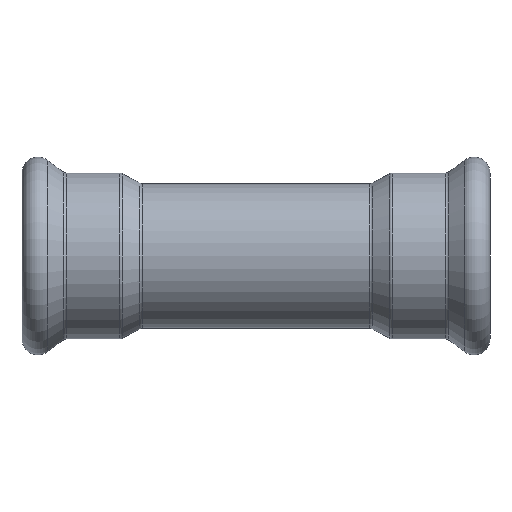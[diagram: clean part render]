
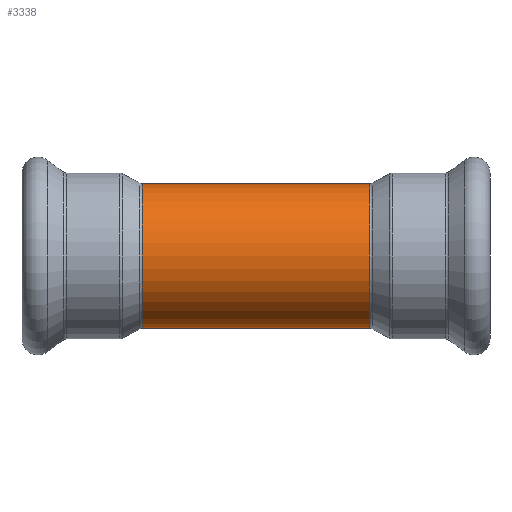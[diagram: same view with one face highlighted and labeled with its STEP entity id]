
A CAD part, front view. The second image highlights one B-rep face of the part: STEP entity #3338.
In plain terms, the highlighted cylindrical face has radius 13.6 mm (diameter 27.2 mm), a partial arc.
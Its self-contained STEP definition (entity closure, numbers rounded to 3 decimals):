
#211 = FACE_OUTER_BOUND ( 'NONE', #1458, .T. ) ;
#228 = ORIENTED_EDGE ( 'NONE', *, *, #1942, .F. ) ;
#263 = EDGE_CURVE ( 'NONE', #1545, #2085, #3509, .T. ) ;
#716 = DIRECTION ( 'NONE',  ( -1., 0., 0. ) ) ;
#768 = DIRECTION ( 'NONE',  ( -1., 0., 0. ) ) ;
#819 = ORIENTED_EDGE ( 'NONE', *, *, #263, .T. ) ;
#836 = DIRECTION ( 'NONE',  ( 0., 0., 1. ) ) ;
#858 = EDGE_CURVE ( 'NONE', #2085, #2040, #3979, .T. ) ;
#1033 = CARTESIAN_POINT ( 'NONE',  ( 0., 0., 13.6 ) ) ;
#1049 = CARTESIAN_POINT ( 'NONE',  ( -21.377, 0., -13.6 ) ) ;
#1064 = CARTESIAN_POINT ( 'NONE',  ( 21.377, 0., 0. ) ) ;
#1120 = CARTESIAN_POINT ( 'NONE',  ( 0., 0., -13.6 ) ) ;
#1232 = CARTESIAN_POINT ( 'NONE',  ( -21.377, 0., 0. ) ) ;
#1458 = EDGE_LOOP ( 'NONE', ( #228, #819, #2726, #3712 ) ) ;
#1545 = VERTEX_POINT ( 'NONE', #2739 ) ;
#1636 = DIRECTION ( 'NONE',  ( 0., 0., 1. ) ) ;
#1699 = VECTOR ( 'NONE', #2455, 1000. ) ;
#1836 = VECTOR ( 'NONE', #716, 1000. ) ;
#1869 = CYLINDRICAL_SURFACE ( 'NONE', #2808, 13.6 ) ;
#1942 = EDGE_CURVE ( 'NONE', #1545, #3733, #3749, .T. ) ;
#2040 = VERTEX_POINT ( 'NONE', #3221 ) ;
#2085 = VERTEX_POINT ( 'NONE', #3692 ) ;
#2187 = AXIS2_PLACEMENT_3D ( 'NONE', #1064, #768, #2674 ) ;
#2244 = CIRCLE ( 'NONE', #3077, 13.6 ) ;
#2297 = DIRECTION ( 'NONE',  ( -1., 0., 0. ) ) ;
#2455 = DIRECTION ( 'NONE',  ( -1., 0., 0. ) ) ;
#2674 = DIRECTION ( 'NONE',  ( 0., 0., 1. ) ) ;
#2726 = ORIENTED_EDGE ( 'NONE', *, *, #858, .T. ) ;
#2739 = CARTESIAN_POINT ( 'NONE',  ( 21.377, 0., -13.6 ) ) ;
#2808 = AXIS2_PLACEMENT_3D ( 'NONE', #4258, #2297, #1636 ) ;
#2814 = DIRECTION ( 'NONE',  ( 1., 0., 0. ) ) ;
#3077 = AXIS2_PLACEMENT_3D ( 'NONE', #1232, #2814, #836 ) ;
#3221 = CARTESIAN_POINT ( 'NONE',  ( -21.377, 0., 13.6 ) ) ;
#3338 = ADVANCED_FACE ( 'NONE', ( #211 ), #1869, .T. ) ;
#3509 = CIRCLE ( 'NONE', #2187, 13.6 ) ;
#3692 = CARTESIAN_POINT ( 'NONE',  ( 21.377, 0., 13.6 ) ) ;
#3712 = ORIENTED_EDGE ( 'NONE', *, *, #3930, .T. ) ;
#3733 = VERTEX_POINT ( 'NONE', #1049 ) ;
#3749 = LINE ( 'NONE', #1120, #1699 ) ;
#3930 = EDGE_CURVE ( 'NONE', #2040, #3733, #2244, .T. ) ;
#3979 = LINE ( 'NONE', #1033, #1836 ) ;
#4258 = CARTESIAN_POINT ( 'NONE',  ( 0., 0., 0. ) ) ;
